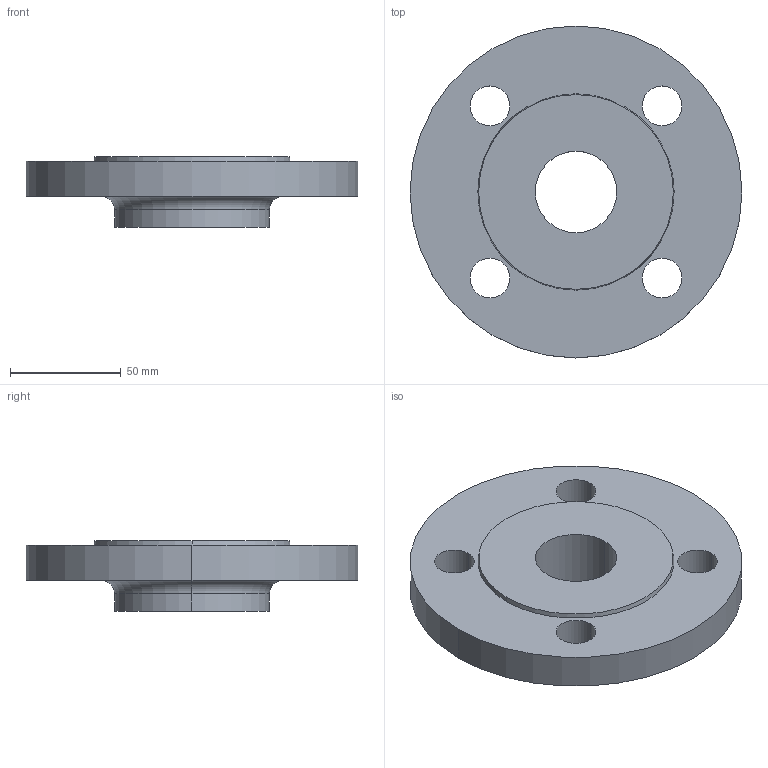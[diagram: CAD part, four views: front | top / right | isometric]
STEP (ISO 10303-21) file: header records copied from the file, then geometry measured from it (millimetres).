
FILE_DESCRIPTION (( 'STEP AP214' ), '1' );
FILE_NAME ('PN40 DN40 Type 13 - Type B Face.STEP', '2018-12-30T04:19:33', ( '' ), ( '' ), 'SwSTEP 2.0', 'SolidWorks 2019', '' );
FILE_SCHEMA (( 'AUTOMOTIVE_DESIGN' ));
Length unit declared in the file: millimetre
Products named in the file (1): PN40 DN40 Type 13 - Type B Face
Bounding box: 150 x 150 x 32 mm (x, y, z)
Volume: 300414.6 mm3; surface area: 49033.4 mm2
Topology: 1 solids, 1 shells, 22 faces, 52 edges, 34 vertices
Faces by surface type: cylinder 14, plane 4, torus 2, cone 2
Entity records: 710 total; most frequent: DIRECTION 134, CARTESIAN_POINT 109, ORIENTED_EDGE 104, AXIS2_PLACEMENT_3D 59, EDGE_CURVE 52, CIRCLE 36, VERTEX_POINT 34, EDGE_LOOP 34
